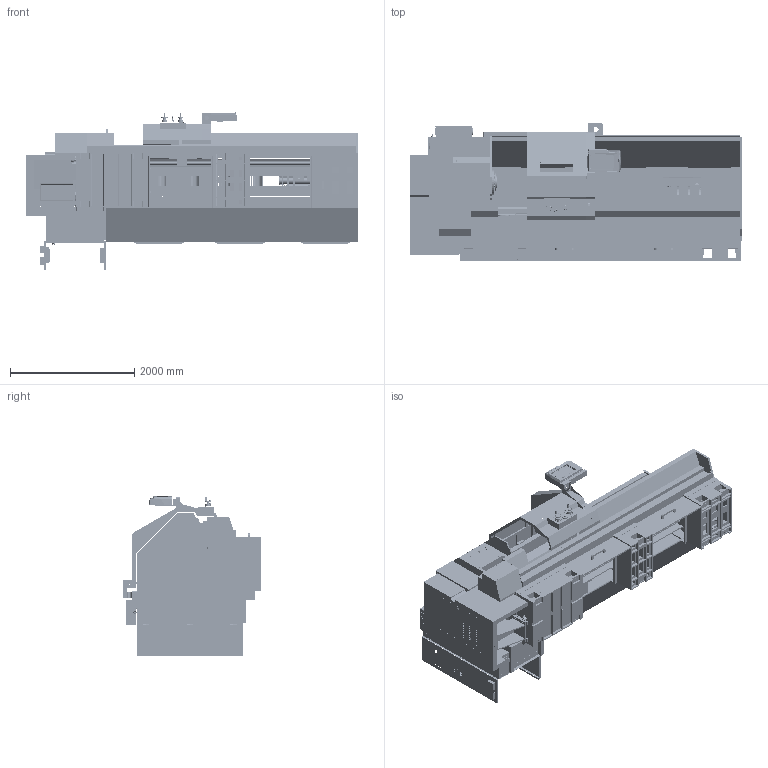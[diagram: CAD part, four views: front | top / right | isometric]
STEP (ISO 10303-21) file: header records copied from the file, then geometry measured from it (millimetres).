
FILE_DESCRIPTION (( 'STEP AP203' ), '1' );
FILE_NAME ('30120RX-Simplified.STEP', '2019-07-12T20:33:57', ( '' ), ( '' ), 'SwSTEP 2.0', 'SolidWorks 2019', '' );
FILE_SCHEMA (( 'CONFIG_CONTROL_DESIGN' ));
Products named in the file (1): 30120RX-Simplified
Bounding box: 5346.17 x 2236.4 x 2563.44 mm (x, y, z)
Surface area: 109124844 mm2 (no closed solid volume)
Topology: 0 solids, 1242 shells, 5491 faces, 34848 edges, 29992 vertices
Faces by surface type: plane 3274, cylinder 1456, cone 414, torus 168, bspline 120, sphere 59
Entity records: 380715 total; most frequent: CARTESIAN_POINT 120117, DIRECTION 50564, ORIENTED_EDGE 42887, EDGE_CURVE 34658, VERTEX_POINT 29931, VECTOR 22986, LINE 22986, AXIS2_PLACEMENT_3D 13789
